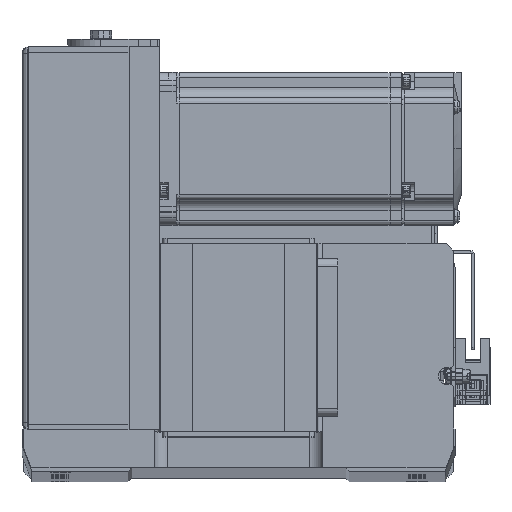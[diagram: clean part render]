
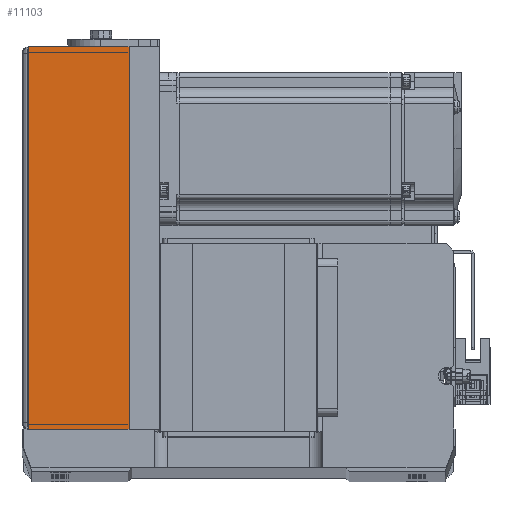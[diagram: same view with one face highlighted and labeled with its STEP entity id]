
A CAD part, top view. The second image highlights one B-rep face of the part: STEP entity #11103.
In plain terms, the highlighted planar face has unit normal (0, 0, 1) as drawn and (0, 1, 0) by its records, which use the part's own axes.
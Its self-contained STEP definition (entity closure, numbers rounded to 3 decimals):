
#923 = EDGE_LOOP ( 'NONE', ( #37354, #13058, #6467, #3007 ) ) ;
#1402 = CARTESIAN_POINT ( 'NONE',  ( 0., 36., 52. ) ) ;
#2784 = CARTESIAN_POINT ( 'NONE',  ( -75., 36., 51.5 ) ) ;
#3007 = ORIENTED_EDGE ( 'NONE', *, *, #34959, .F. ) ;
#3606 = LINE ( 'NONE', #16710, #8978 ) ;
#3842 = CARTESIAN_POINT ( 'NONE',  ( -75., 36., 51.5 ) ) ;
#5040 = EDGE_CURVE ( 'NONE', #15487, #8752, #15554, .T. ) ;
#6467 = ORIENTED_EDGE ( 'NONE', *, *, #33438, .T. ) ;
#8752 = VERTEX_POINT ( 'NONE', #21205 ) ;
#8978 = VECTOR ( 'NONE', #32589, 1000. ) ;
#10297 = VERTEX_POINT ( 'NONE', #21381 ) ;
#10592 = LINE ( 'NONE', #33042, #21069 ) ;
#10805 = LINE ( 'NONE', #3842, #19937 ) ;
#11103 = ADVANCED_FACE ( 'NONE', ( #17267 ), #30159, .F. ) ;
#12161 = DIRECTION ( 'NONE',  ( 0., 0., -1. ) ) ;
#13058 = ORIENTED_EDGE ( 'NONE', *, *, #5040, .T. ) ;
#15487 = VERTEX_POINT ( 'NONE', #33274 ) ;
#15554 = LINE ( 'NONE', #37724, #41124 ) ;
#16710 = CARTESIAN_POINT ( 'NONE',  ( 0., 36., 12. ) ) ;
#16950 = DIRECTION ( 'NONE',  ( 0., 0., -1. ) ) ;
#17267 = FACE_OUTER_BOUND ( 'NONE', #923, .T. ) ;
#18774 = VERTEX_POINT ( 'NONE', #2784 ) ;
#19807 = DIRECTION ( 'NONE',  ( 0., 0., 1. ) ) ;
#19937 = VECTOR ( 'NONE', #29441, 1000. ) ;
#21069 = VECTOR ( 'NONE', #16950, 1000. ) ;
#21205 = CARTESIAN_POINT ( 'NONE',  ( 75., 36., 12. ) ) ;
#21381 = CARTESIAN_POINT ( 'NONE',  ( -75., 36., 12. ) ) ;
#21503 = AXIS2_PLACEMENT_3D ( 'NONE', #1402, #36909, #19807 ) ;
#29441 = DIRECTION ( 'NONE',  ( -1., 0., 0. ) ) ;
#30159 = PLANE ( 'NONE',  #21503 ) ;
#32589 = DIRECTION ( 'NONE',  ( -1., 0., 0. ) ) ;
#33042 = CARTESIAN_POINT ( 'NONE',  ( -75., 36., 51.5 ) ) ;
#33274 = CARTESIAN_POINT ( 'NONE',  ( 75., 36., 51.5 ) ) ;
#33438 = EDGE_CURVE ( 'NONE', #8752, #10297, #3606, .T. ) ;
#34959 = EDGE_CURVE ( 'NONE', #18774, #10297, #10592, .T. ) ;
#36909 = DIRECTION ( 'NONE',  ( 0., -1., 0. ) ) ;
#37354 = ORIENTED_EDGE ( 'NONE', *, *, #38887, .F. ) ;
#37724 = CARTESIAN_POINT ( 'NONE',  ( 75., 36., 51.5 ) ) ;
#38887 = EDGE_CURVE ( 'NONE', #15487, #18774, #10805, .T. ) ;
#41124 = VECTOR ( 'NONE', #12161, 1000. ) ;
